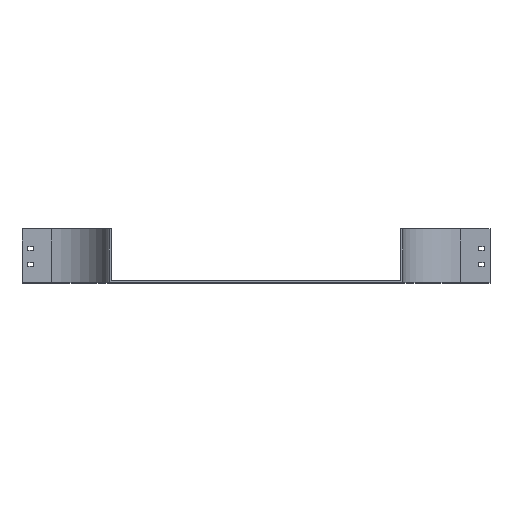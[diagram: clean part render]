
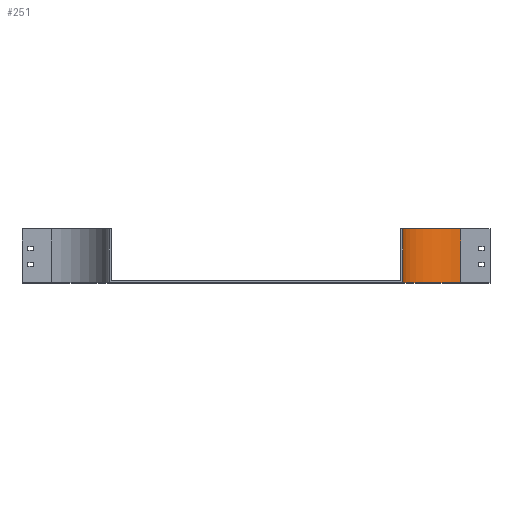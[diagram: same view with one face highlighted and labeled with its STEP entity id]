
A CAD part, top view. The second image highlights one B-rep face of the part: STEP entity #251.
In plain terms, the highlighted cylindrical face has radius 100 mm (diameter 200 mm), a partial arc.
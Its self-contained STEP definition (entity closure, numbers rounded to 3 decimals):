
#138 = VERTEX_POINT ( 'NONE', #1244 ) ;
#166 = VERTEX_POINT ( 'NONE', #2480 ) ;
#232 = FACE_OUTER_BOUND ( 'NONE', #3134, .T. ) ;
#251 = ADVANCED_FACE ( 'NONE', ( #232 ), #3770, .F. ) ;
#300 = CARTESIAN_POINT ( 'NONE',  ( 0., 92.5, 0. ) ) ;
#517 = ORIENTED_EDGE ( 'NONE', *, *, #1135, .F. ) ;
#616 = AXIS2_PLACEMENT_3D ( 'NONE', #300, #1502, #1458 ) ;
#785 = CIRCLE ( 'NONE', #2738, 100. ) ;
#858 = EDGE_CURVE ( 'NONE', #138, #166, #1446, .T. ) ;
#876 = CARTESIAN_POINT ( 'NONE',  ( 0., 92.5, 0. ) ) ;
#907 = ORIENTED_EDGE ( 'NONE', *, *, #1661, .F. ) ;
#1038 = DIRECTION ( 'NONE',  ( 0., -1., 0. ) ) ;
#1135 = EDGE_CURVE ( 'NONE', #138, #3251, #785, .T. ) ;
#1151 = LINE ( 'NONE', #2311, #2248 ) ;
#1244 = CARTESIAN_POINT ( 'NONE',  ( -100., 92.5, 0. ) ) ;
#1325 = CARTESIAN_POINT ( 'NONE',  ( 0., 0., -100. ) ) ;
#1349 = DIRECTION ( 'NONE',  ( 0., 0., -1. ) ) ;
#1417 = CIRCLE ( 'NONE', #3547, 100. ) ;
#1446 = LINE ( 'NONE', #2069, #3330 ) ;
#1458 = DIRECTION ( 'NONE',  ( 0., 0., -1. ) ) ;
#1502 = DIRECTION ( 'NONE',  ( 0., -1., 0. ) ) ;
#1661 = EDGE_CURVE ( 'NONE', #3251, #2540, #1151, .T. ) ;
#1791 = CARTESIAN_POINT ( 'NONE',  ( 0., 92.5, -100. ) ) ;
#2069 = CARTESIAN_POINT ( 'NONE',  ( -100., 92.5, 0. ) ) ;
#2123 = ORIENTED_EDGE ( 'NONE', *, *, #858, .T. ) ;
#2248 = VECTOR ( 'NONE', #2370, 1000. ) ;
#2311 = CARTESIAN_POINT ( 'NONE',  ( 0., 92.5, -100. ) ) ;
#2370 = DIRECTION ( 'NONE',  ( 0., -1., 0. ) ) ;
#2480 = CARTESIAN_POINT ( 'NONE',  ( -100., 0., 0. ) ) ;
#2531 = ORIENTED_EDGE ( 'NONE', *, *, #3327, .T. ) ;
#2540 = VERTEX_POINT ( 'NONE', #1325 ) ;
#2738 = AXIS2_PLACEMENT_3D ( 'NONE', #876, #2903, #2887 ) ;
#2887 = DIRECTION ( 'NONE',  ( 0., 0., -1. ) ) ;
#2903 = DIRECTION ( 'NONE',  ( 0., -1., 0. ) ) ;
#3134 = EDGE_LOOP ( 'NONE', ( #2531, #907, #517, #2123 ) ) ;
#3220 = DIRECTION ( 'NONE',  ( 0., -1., 0. ) ) ;
#3251 = VERTEX_POINT ( 'NONE', #1791 ) ;
#3327 = EDGE_CURVE ( 'NONE', #166, #2540, #1417, .T. ) ;
#3330 = VECTOR ( 'NONE', #3220, 1000. ) ;
#3547 = AXIS2_PLACEMENT_3D ( 'NONE', #3655, #1038, #1349 ) ;
#3655 = CARTESIAN_POINT ( 'NONE',  ( 0., 0., 0. ) ) ;
#3770 = CYLINDRICAL_SURFACE ( 'NONE', #616, 100. ) ;
